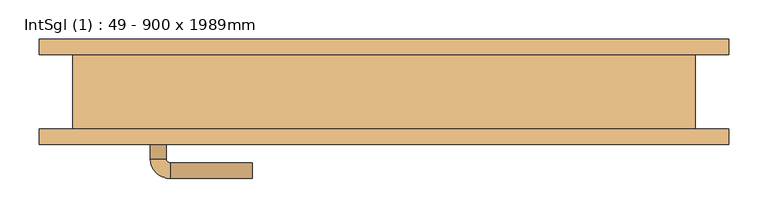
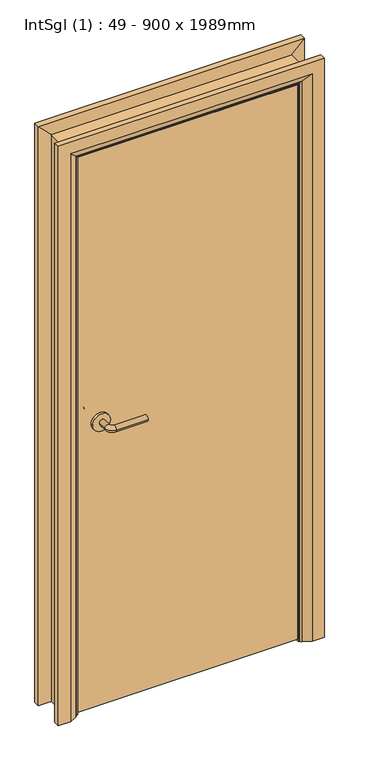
"""IFC4 building model written with IfcOpenShell, lengths in millimetres: door geometry, IntSgl (1) : 49 - 900 x 1989mm."""

from ifc_helpers import new_model, si_unit, point, frame, frame_2d, origin, place, context, project, spatial, polyline, circle_curve, ellipse_curve, trimmed, segment, composite_curve, outline, extrude, faceted_brep, source, transform, mapped, element, save
from ifc_brep_helpers import plane_surface, cylinder_surface, revolved_surface, advanced_brep


def intsgl_1_49_900_x_1989mm_9c2f74cf(model_context):
    return source(origin(), model_context, "Body", "SolidModel", [
        advanced_brep(
        [(-298.0, -1.5, 1000.0), (-278.0, -1.5, 1000.0), (-298.0, 28.5, 1000.0), (-278.0, 28.5, 1000.0), (-273.0, 33.5, 1000.0), (-273.0, 53.5, 1000.0), (-168.0, 53.5, 1000.0), (-168.0, 33.5, 1000.0)],
        [
            (0, 1, circle_curve(frame((-288.0, -1.5, 1000.0), z_axis=(0.0, -1.0, 0.0), x_axis=(1.0, 0.0, 0.0)), 10.0)),
            (1, 0, circle_curve(frame((-288.0, -1.5, 1000.0), z_axis=(0.0, -1.0, 0.0), x_axis=(1.0, 0.0, 0.0)), 10.0)),
            (0, 2),
            (2, 3, circle_curve(frame((-288.0, 28.5, 1000.0), z_axis=(0.0, -1.0, 0.0), x_axis=(1.0, 0.0, 0.0)), 10.0)),
            (3, 1),
            (3, 2, circle_curve(frame((-288.0, 28.5, 1000.0), z_axis=(0.0, -1.0, 0.0), x_axis=(1.0, 0.0, 0.0)), 10.0)),
            (4, 3, circle_curve(frame((-273.0, 28.5, 1000.0), z_axis=(0.0, 0.0, 1.0), x_axis=(-1.0, 0.0, 0.0)), 5.0)),
            (2, 5, circle_curve(frame((-273.0, 28.5, 1000.0), z_axis=(0.0, 0.0, -1.0), x_axis=(-1.0, 0.0, 0.0)), 25.0)),
            (5, 4, circle_curve(frame((-273.0, 43.5, 1000.0), z_axis=(-1.0, 0.0, 0.0), x_axis=(0.0, -1.0, 0.0)), 10.0)),
            (4, 5, circle_curve(frame((-273.0, 43.5, 1000.0), z_axis=(-1.0, 0.0, 0.0), x_axis=(0.0, -1.0, 0.0)), 10.0)),
            (6, 7, circle_curve(frame((-168.0, 43.5, 1000.0), z_axis=(1.0, 0.0, 0.0), x_axis=(0.0, -1.0, 0.0)), 10.0)),
            (7, 6, circle_curve(frame((-168.0, 43.5, 1000.0), z_axis=(1.0, 0.0, 0.0), x_axis=(0.0, -1.0, 0.0)), 10.0)),
            (5, 6),
            (7, 4),
        ],
        [
            plane_surface(frame((-288.0, -1.5, 1000.0), z_axis=(0.0, -1.0, 0.0), x_axis=(0.0, 0.0, 1.0))),
            cylinder_surface(frame((-288.0, -1.5, 1000.0), z_axis=(0.0, -1.0, 0.0), x_axis=(1.0, 0.0, 0.0)), 10.0),
            revolved_surface(trimmed(ellipse_curve(frame((-288.0, 28.5, 1000.0), z_axis=(0.0, -1.0, 0.0), x_axis=(1.0, 0.0, 0.0)), 10.0, 10.0), [point((-298.0, 28.5, 1000.0))], [point((-278.0, 28.5, 1000.0))], True, "CARTESIAN"), (-273.0, 28.5, 1000.0), (0.0, 0.0, -1.0)),
            revolved_surface(trimmed(ellipse_curve(frame((-288.0, 28.5, 1000.0), z_axis=(0.0, -1.0, 0.0), x_axis=(1.0, 0.0, 0.0)), 10.0, 10.0), [point((-278.0, 28.5, 1000.0))], [point((-298.0, 28.5, 1000.0))], True, "CARTESIAN"), (-273.0, 28.5, 1000.0), (0.0, 0.0, -1.0)),
            plane_surface(frame((-168.0, 43.5, 1000.0), z_axis=(1.0, 0.0, 0.0), x_axis=(0.0, 0.0, 1.0))),
            cylinder_surface(frame((-273.0, 43.5, 1000.0), z_axis=(-1.0, 0.0, 0.0), x_axis=(0.0, -1.0, 0.0)), 10.0),
        ],
        [
            (0, [[1, 2]]),
            (1, [[-1, 3, 4, 5]]),
            (1, [[-2, -5, 6, -3]]),
            (2, [[7, -4, 8, 9]]),
            (3, [[-8, -6, -7, 10]]),
            (4, [[11, 12]]),
            (5, [[-9, 13, -12, 14]]),
            (5, [[-10, -14, -11, -13]]),
        ],
    ),
        extrude(outline(composite_curve([segment(trimmed(circle_curve(frame_2d((1000.0, -290.5)), 30.0), [point((1000.0, -320.5))], [point((1000.0, -260.5))], False, "CARTESIAN"), True, "CONTINUOUS"), segment(trimmed(circle_curve(frame_2d((1000.0, -290.5)), 30.0), [point((1000.0, -260.5))], [point((1000.0, -320.5))], False, "CARTESIAN"), True, "CONTINUOUS")], self_intersect=False)), frame((0.0, -9.5, 0.0), z_axis=(0.0, 1.0, 0.0), x_axis=(0.0, 0.0, 1.0)), (0.0, 0.0, 1.0), 8.0),
        advanced_brep(
        [(-298.0, -55.5, 1000.0), (-278.0, -55.5, 1000.0), (-278.0, -85.5, 1000.0), (-298.0, -85.5, 1000.0), (-273.0, -90.5, 1000.0), (-273.0, -110.5, 1000.0), (-168.0, -110.5, 1000.0), (-168.0, -90.5, 1000.0)],
        [
            (0, 1, circle_curve(frame((-288.0, -55.5, 1000.0), z_axis=(0.0, 1.0, 0.0), x_axis=(1.0, 0.0, 0.0)), 10.0)),
            (1, 0, circle_curve(frame((-288.0, -55.5, 1000.0), z_axis=(0.0, 1.0, 0.0), x_axis=(1.0, 0.0, 0.0)), 10.0)),
            (1, 2),
            (2, 3, circle_curve(frame((-288.0, -85.5, 1000.0), z_axis=(0.0, 1.0, 0.0), x_axis=(1.0, 0.0, 0.0)), 10.0)),
            (3, 0),
            (3, 2, circle_curve(frame((-288.0, -85.5, 1000.0), z_axis=(0.0, 1.0, 0.0), x_axis=(1.0, 0.0, 0.0)), 10.0)),
            (4, 5, circle_curve(frame((-273.0, -100.5, 1000.0), z_axis=(-1.0, 0.0, 0.0), x_axis=(0.0, 1.0, 0.0)), 10.0)),
            (5, 3, circle_curve(frame((-273.0, -85.5, 1000.0), z_axis=(0.0, 0.0, -1.0), x_axis=(-1.0, 0.0, 0.0)), 25.0)),
            (2, 4, circle_curve(frame((-273.0, -85.5, 1000.0), z_axis=(0.0, 0.0, 1.0), x_axis=(-1.0, 0.0, 0.0)), 5.0)),
            (5, 4, circle_curve(frame((-273.0, -100.5, 1000.0), z_axis=(-1.0, 0.0, 0.0), x_axis=(0.0, 1.0, 0.0)), 10.0)),
            (6, 7, circle_curve(frame((-168.0, -100.5, 1000.0), z_axis=(1.0, 0.0, 0.0), x_axis=(0.0, 1.0, 0.0)), 10.0)),
            (7, 6, circle_curve(frame((-168.0, -100.5, 1000.0), z_axis=(1.0, 0.0, 0.0), x_axis=(0.0, 1.0, 0.0)), 10.0)),
            (4, 7),
            (6, 5),
        ],
        [
            plane_surface(frame((-288.0, -55.5, 1000.0), z_axis=(0.0, 1.0, 0.0), x_axis=(0.0, 0.0, 1.0))),
            cylinder_surface(frame((-288.0, -55.5, 1000.0), z_axis=(0.0, 1.0, 0.0), x_axis=(1.0, 0.0, 0.0)), 10.0),
            revolved_surface(trimmed(ellipse_curve(frame((-288.0, -85.5, 1000.0), z_axis=(0.0, -1.0, 0.0), x_axis=(1.0, 0.0, 0.0)), 10.0, 10.0), [point((-298.0, -85.5, 1000.0))], [point((-278.0, -85.5, 1000.0))], True, "CARTESIAN"), (-273.0, -85.5, 1000.0), (0.0, 0.0, -1.0)),
            revolved_surface(trimmed(ellipse_curve(frame((-288.0, -85.5, 1000.0), z_axis=(0.0, -1.0, 0.0), x_axis=(1.0, 0.0, 0.0)), 10.0, 10.0), [point((-278.0, -85.5, 1000.0))], [point((-298.0, -85.5, 1000.0))], True, "CARTESIAN"), (-273.0, -85.5, 1000.0), (0.0, 0.0, -1.0)),
            plane_surface(frame((-168.0, -100.5, 1000.0), z_axis=(1.0, 0.0, 0.0), x_axis=(0.0, 0.0, 1.0))),
            cylinder_surface(frame((-273.0, -100.5, 1000.0), z_axis=(-1.0, 0.0, 0.0), x_axis=(0.0, 1.0, 0.0)), 10.0),
        ],
        [
            (0, [[1, 2]]),
            (1, [[3, 4, 5, -2]]),
            (1, [[-5, 6, -3, -1]]),
            (2, [[7, 8, -4, 9]]),
            (3, [[10, -9, -6, -8]]),
            (4, [[11, 12]]),
            (5, [[13, -11, 14, -7]]),
            (5, [[-14, -12, -13, -10]]),
        ],
    ),
        extrude(outline(composite_curve([segment(trimmed(circle_curve(frame_2d((1000.0, -290.5)), 30.0), [point((1000.0, -320.5))], [point((1000.0, -260.5))], False, "CARTESIAN"), True, "CONTINUOUS"), segment(trimmed(circle_curve(frame_2d((1000.0, -290.5)), 30.0), [point((1000.0, -260.5))], [point((1000.0, -320.5))], False, "CARTESIAN"), True, "CONTINUOUS")], self_intersect=False)), frame((0.0, -55.5, 0.0), z_axis=(0.0, 1.0, 0.0), x_axis=(0.0, 0.0, 1.0)), (0.0, 0.0, 1.0), 8.0),
        extrude(outline(polyline([(363.0, -9.5), (363.0, -47.5), (-363.0, -47.5), (-363.0, -9.5), (363.0, -9.5)])), frame((0.0, 0.0, 8.0), z_axis=(0.0, 0.0, 1.0), x_axis=(1.0, 0.0, 0.0)), (0.0, 0.0, 1.0), 1939.0),
        advanced_brep(
        [(440.0, -67.5, 0.0), (400.0, -67.5, 0.0), (374.0, -53.5, 0.0), (370.0, -47.5, 0.0), (440.0, -47.5, 0.0), (440.0, -47.5, 2024.0), (440.0, -67.5, 2024.0), (370.0, -47.5, 1954.0), (-370.0, -47.5, 1954.0), (-370.0, -47.5, 0.0), (-440.0, -47.5, 0.0), (-440.0, -47.5, 2024.0), (374.0, -53.5, 1958.0), (400.0, -67.5, 1984.0), (-440.0, -67.5, 2024.0), (-440.0, -67.5, 0.0), (-400.0, -67.5, 0.0), (-400.0, -67.5, 1984.0), (-374.0, -53.5, 1958.0), (-374.0, -53.5, 0.0)],
        [
            (0, 1),
            (1, 2),
            (2, 3, circle_curve(frame((378.0, -46.5, 0.0), z_axis=(0.0, 0.0, -1.0), x_axis=(1.0, 0.0, 0.0)), 8.0622577)),
            (3, 4),
            (4, 0),
            (4, 5),
            (5, 6),
            (6, 0),
            (3, 7),
            (7, 8),
            (8, 9),
            (9, 10),
            (10, 11),
            (11, 5),
            (2, 12),
            (12, 7, ellipse_curve(frame((378.0, -46.5, 1962.0), z_axis=(0.7071067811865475, 0.0, -0.7071067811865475), x_axis=(-0.7071067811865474, 0.0, -0.7071067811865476)), 11.4017543, 8.0622577)),
            (1, 13),
            (13, 12),
            (6, 14),
            (14, 15),
            (15, 16),
            (16, 17),
            (17, 13),
            (11, 14),
            (12, 18),
            (18, 8, ellipse_curve(frame((-378.0, -46.5, 1962.0), z_axis=(0.7071067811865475, 0.0, 0.7071067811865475), x_axis=(0.7071067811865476, 0.0, -0.7071067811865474)), 11.4017543, 8.0622577)),
            (17, 18),
            (15, 10),
            (9, 19, circle_curve(frame((-378.0, -46.5, 0.0), z_axis=(0.0, 0.0, -1.0), x_axis=(-1.0, 0.0, 0.0)), 8.0622577)),
            (19, 16),
            (18, 19),
        ],
        [
            plane_surface(frame((370.0, -47.5, 0.0), z_axis=(0.0, 0.0, -1.0), x_axis=(0.0, 1.0, 0.0))),
            plane_surface(frame((440.0, -67.5, 0.0), z_axis=(1.0, 0.0, 0.0), x_axis=(0.0, 0.0, 1.0))),
            plane_surface(frame((440.0, -47.5, 0.0), z_axis=(0.0, 1.0, 0.0), x_axis=(0.0, 0.0, 1.0))),
            cylinder_surface(frame((378.0, -46.5, 0.0), z_axis=(0.0, 0.0, -1.0), x_axis=(1.0, 0.0, 0.0)), 8.0622577),
            plane_surface(frame((374.0, -53.5, 0.0), z_axis=(-0.4740998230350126, -0.880471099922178, 0.0), x_axis=(0.0, 0.0, 1.0))),
            plane_surface(frame((400.0, -67.5, 0.0), z_axis=(0.0, -1.0, 0.0), x_axis=(0.0, 0.0, 1.0))),
            plane_surface(frame((440.0, -67.5, 2024.0), z_axis=(0.0, 0.0, 1.0), x_axis=(-1.0, 0.0, 0.0))),
            cylinder_surface(frame((370.0, -46.5, 1962.0), z_axis=(1.0, 0.0, 0.0), x_axis=(0.0, 0.0, 1.0)), 8.0622577),
            plane_surface(frame((374.0, -53.5, 1958.0), z_axis=(0.0, -0.8804710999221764, -0.4740998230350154), x_axis=(-1.0, 0.0, 0.0))),
            plane_surface(frame((-370.0, -47.5, 0.0), z_axis=(0.0, 0.0, -1.0), x_axis=(0.0, 1.0, 0.0))),
            plane_surface(frame((-440.0, -67.5, 2024.0), z_axis=(-1.0, 0.0, 0.0), x_axis=(0.0, 0.0, -1.0))),
            cylinder_surface(frame((-378.0, -46.5, 1954.0), z_axis=(0.0, 0.0, 1.0), x_axis=(-1.0, 0.0, 0.0)), 8.0622577),
            plane_surface(frame((-374.0, -53.5, 1958.0), z_axis=(0.47409982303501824, -0.8804710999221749, 0.0), x_axis=(0.0, 0.0, -1.0))),
        ],
        [
            (0, [[1, 2, 3, 4, 5]]),
            (1, [[6, 7, 8, -5]]),
            (2, [[9, 10, 11, 12, 13, 14, -6, -4]]),
            (3, [[15, 16, -9, -3]]),
            (4, [[17, 18, -15, -2]]),
            (5, [[-8, 19, 20, 21, 22, 23, -17, -1]]),
            (6, [[-14, 24, -19, -7]]),
            (7, [[25, 26, -10, -16]]),
            (8, [[-23, 27, -25, -18]]),
            (9, [[28, -12, 29, 30, -21]]),
            (10, [[-13, -28, -20, -24]]),
            (11, [[31, -29, -11, -26]]),
            (12, [[-22, -30, -31, -27]]),
        ],
    ),
        extrude(outline(polyline([(0.0, -346.0), (1930.0, -346.0), (1930.0, 346.0), (0.0, 346.0), (0.0, 365.0), (1949.0, 365.0), (1949.0, -365.0), (0.0, -365.0), (0.0, -346.0)])), frame((0.0, -7.5, 0.0), z_axis=(0.0, 1.0, 0.0), x_axis=(0.0, 0.0, 1.0)), (0.0, 0.0, 1.0), 32.0),
        advanced_brep(
        [(-440.0, 67.5, 0.0), (-400.0, 67.5, 0.0), (-374.0, 53.5, 0.0), (-370.0, 47.5, 0.0), (-440.0, 47.5, 0.0), (-440.0, 47.5, 2024.0), (-440.0, 67.5, 2024.0), (-370.0, 47.5, 1954.0), (-374.0, 53.5, 1958.0), (-400.0, 67.5, 1984.0), (440.0, 47.5, 2024.0), (440.0, 67.5, 2024.0), (370.0, 47.5, 1954.0), (374.0, 53.5, 1958.0), (400.0, 67.5, 1984.0), (440.0, 67.5, 0.0), (440.0, 47.5, 0.0), (370.0, 47.5, 0.0), (374.0, 53.5, 0.0), (400.0, 67.5, 0.0)],
        [
            (0, 1),
            (1, 2),
            (2, 3, circle_curve(frame((-378.0, 46.5, 0.0), z_axis=(0.0, 0.0, -1.0), x_axis=(-1.0, 0.0, 0.0)), 8.0622577)),
            (3, 4),
            (4, 0),
            (4, 5),
            (5, 6),
            (6, 0),
            (3, 7),
            (7, 5),
            (2, 8),
            (8, 7, ellipse_curve(frame((-378.0, 46.5, 1962.0), z_axis=(-0.7071067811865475, 0.0, -0.7071067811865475), x_axis=(0.7071067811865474, 0.0, -0.7071067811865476)), 11.4017543, 8.0622577)),
            (1, 9),
            (9, 8),
            (6, 9),
            (5, 10),
            (10, 11),
            (11, 6),
            (7, 12),
            (12, 10),
            (8, 13),
            (13, 12, ellipse_curve(frame((378.0, 46.5, 1962.0), z_axis=(-0.7071067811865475, 0.0, 0.7071067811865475), x_axis=(-0.7071067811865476, 0.0, -0.7071067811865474)), 11.4017543, 8.0622577)),
            (9, 14),
            (14, 13),
            (11, 14),
            (15, 16),
            (16, 17),
            (17, 18, circle_curve(frame((378.0, 46.5, 0.0), z_axis=(0.0, 0.0, -1.0), x_axis=(1.0, 0.0, 0.0)), 8.0622577)),
            (18, 19),
            (19, 15),
            (10, 16),
            (15, 11),
            (12, 17),
            (13, 18),
            (14, 19),
        ],
        [
            plane_surface(frame((-370.0, 120.3010989, 0.0), z_axis=(0.0, 0.0, -1.0), x_axis=(1.0, 0.0, 0.0))),
            plane_surface(frame((-440.0, 67.5, 0.0), z_axis=(-1.0, 0.0, 0.0), x_axis=(0.0, 0.0, 1.0))),
            plane_surface(frame((-440.0, 47.5, 0.0), z_axis=(0.0, -1.0, 0.0), x_axis=(0.0, 0.0, 1.0))),
            cylinder_surface(frame((-378.0, 46.5, 0.0), z_axis=(0.0, 0.0, -1.0), x_axis=(-1.0, 0.0, 0.0)), 8.0622577),
            plane_surface(frame((-374.0, 53.5, 0.0), z_axis=(0.4740998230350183, 0.8804710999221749, 0.0), x_axis=(0.0, 0.0, 1.0))),
            plane_surface(frame((-400.0, 67.5, 0.0), z_axis=(0.0, 1.0, 0.0), x_axis=(0.0, 0.0, 1.0))),
            plane_surface(frame((-440.0, 67.5, 2024.0), z_axis=(0.0, 0.0, 1.0), x_axis=(1.0, 0.0, 0.0))),
            plane_surface(frame((-440.0, 47.5, 2024.0), z_axis=(0.0, -1.0, 0.0), x_axis=(1.0, 0.0, 0.0))),
            cylinder_surface(frame((-370.0, 46.5, 1962.0), z_axis=(-1.0, 0.0, 0.0), x_axis=(0.0, 0.0, 1.0)), 8.0622577),
            plane_surface(frame((-374.0, 53.5, 1958.0), z_axis=(0.0, 0.8804710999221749, -0.4740998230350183), x_axis=(1.0, 0.0, 0.0))),
            plane_surface(frame((-400.0, 67.5, 1984.0), z_axis=(0.0, 1.0, 0.0), x_axis=(1.0, 0.0, 0.0))),
            plane_surface(frame((370.0, 120.3010989, 0.0), z_axis=(0.0, 0.0, -1.0), x_axis=(-1.0, 0.0, 0.0))),
            plane_surface(frame((440.0, 67.5, 2024.0), z_axis=(1.0, 0.0, 0.0), x_axis=(0.0, 0.0, -1.0))),
            plane_surface(frame((440.0, 47.5, 2024.0), z_axis=(0.0, -1.0, 0.0), x_axis=(0.0, 0.0, -1.0))),
            cylinder_surface(frame((378.0, 46.5, 1954.0), z_axis=(0.0, 0.0, 1.0), x_axis=(1.0, 0.0, 0.0)), 8.0622577),
            plane_surface(frame((374.0, 53.5, 1958.0), z_axis=(-0.4740998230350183, 0.8804710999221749, 0.0), x_axis=(0.0, 0.0, -1.0))),
            plane_surface(frame((400.0, 67.5, 1984.0), z_axis=(0.0, 1.0, 0.0), x_axis=(0.0, 0.0, -1.0))),
        ],
        [
            (0, [[1, 2, 3, 4, 5]]),
            (1, [[6, 7, 8, -5]]),
            (2, [[9, 10, -6, -4]]),
            (3, [[11, 12, -9, -3]]),
            (4, [[13, 14, -11, -2]]),
            (5, [[-8, 15, -13, -1]]),
            (6, [[16, 17, 18, -7]]),
            (7, [[19, 20, -16, -10]]),
            (8, [[21, 22, -19, -12]]),
            (9, [[23, 24, -21, -14]]),
            (10, [[-18, 25, -23, -15]]),
            (11, [[26, 27, 28, 29, 30]]),
            (12, [[31, -26, 32, -17]]),
            (13, [[33, -27, -31, -20]]),
            (14, [[34, -28, -33, -22]]),
            (15, [[35, -29, -34, -24]]),
            (16, [[-32, -30, -35, -25]]),
        ],
    ),
        faceted_brep([(-365.0, -47.5, 0.0), (-397.0, -47.5, 0.0), (-397.0, 47.5, 0.0), (-365.0, 47.5, 0.0), (-365.0, 47.5, 1949.0), (-365.0, -47.5, 1949.0), (-397.0, 47.5, 1981.0), (-397.0, -47.5, 1981.0), (365.0, 47.5, 1949.0), (365.0, -47.5, 1949.0), (397.0, 47.5, 1981.0), (397.0, -47.5, 1981.0), (365.0, -47.5, 0.0), (365.0, 47.5, 0.0), (397.0, 47.5, 0.0), (397.0, -47.5, 0.0)], [[[0, 1, 2, 3]], [[3, 4, 5, 0]], [[2, 6, 4, 3]], [[1, 7, 6, 2]], [[0, 5, 7, 1]], [[4, 8, 9, 5]], [[6, 10, 8, 4]], [[7, 11, 10, 6]], [[5, 9, 11, 7]], [[12, 13, 14, 15]], [[8, 13, 12, 9]], [[10, 14, 13, 8]], [[11, 15, 14, 10]], [[9, 12, 15, 11]]]),
    ])


if __name__ == "__main__":
    model = new_model("IFC4")
    model_context = context("Model", 3, world=origin())
    ifc_project = project(units=[si_unit("LENGTHUNIT", "METRE", prefix="MILLI")], contexts=[model_context])
    site = spatial("IfcSite", under=ifc_project)
    building = spatial("IfcBuilding", under=site)
    placement = place(None, origin())
    intsgl_1_49_900_x_1989mm_shape = intsgl_1_49_900_x_1989mm_9c2f74cf(model_context)
    element("IfcDoor", 1, ObjectType="IntSgl (1) : 49 - 900 x 1989mm", at=placement, inside=building, context=model_context, shape_type="MappedRepresentation", body=[
        mapped(intsgl_1_49_900_x_1989mm_shape, transform((0.0, 0.0, 0.0), x_axis=(1.0, 0.0, 0.0), y_axis=(0.0, 1.0, 0.0), z_axis=(0.0, 0.0, 1.0))),
    ])
    save(model, "model.ifc")
